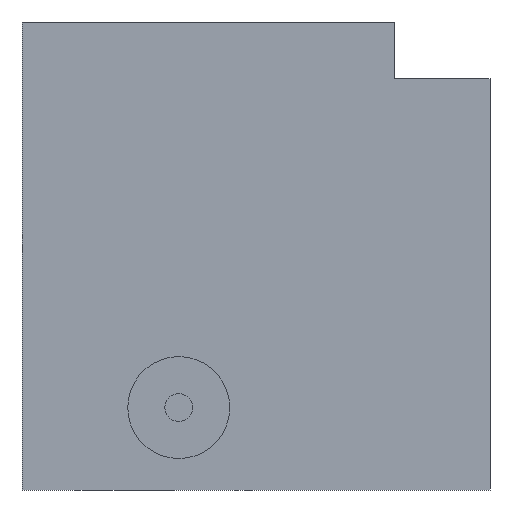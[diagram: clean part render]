
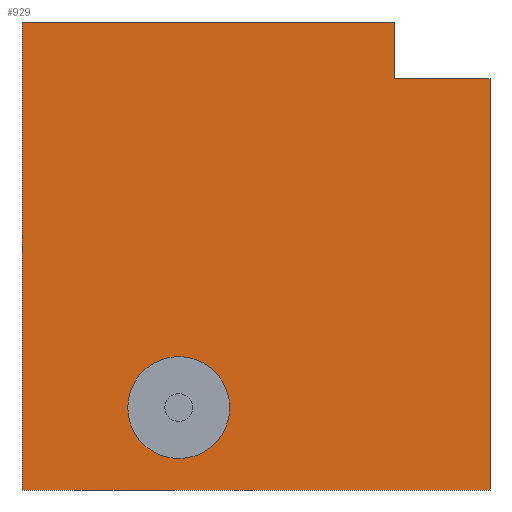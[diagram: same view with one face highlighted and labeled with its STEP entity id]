
A CAD part, front view. The second image highlights one B-rep face of the part: STEP entity #929.
In plain terms, the highlighted planar face has unit normal (0, -1, 0).
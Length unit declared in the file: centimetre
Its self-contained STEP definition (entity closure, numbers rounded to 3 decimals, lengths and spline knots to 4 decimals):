
#2 = CARTESIAN_POINT ( 'NONE',  ( 1000., 0., 879.1119 ) ) ;
#6 = CARTESIAN_POINT ( 'NONE',  ( 334.9439, 0., 176.1278 ) ) ;
#11 = ORIENTED_EDGE ( 'NONE', *, *, #1169, .T. ) ;
#50 = DIRECTION ( 'NONE',  ( 0., 0., -1. ) ) ;
#52 = DIRECTION ( 'NONE',  ( 1., 0., 0. ) ) ;
#60 = VECTOR ( 'NONE', #453, 100. ) ;
#76 = LINE ( 'NONE', #1545, #140 ) ;
#123 = CARTESIAN_POINT ( 'NONE',  ( 0., 0., 1000. ) ) ;
#125 = ORIENTED_EDGE ( 'NONE', *, *, #1502, .F. ) ;
#140 = VECTOR ( 'NONE', #1554, 100. ) ;
#200 = LINE ( 'NONE', #1384, #519 ) ;
#239 = CARTESIAN_POINT ( 'NONE',  ( 334.9439, 0., 67.195 ) ) ;
#253 = CARTESIAN_POINT ( 'NONE',  ( 334.9439, 0., 285.0606 ) ) ;
#273 = CARTESIAN_POINT ( 'NONE',  ( 0., 0., 0. ) ) ;
#290 = LINE ( 'NONE', #123, #1791 ) ;
#375 = EDGE_CURVE ( 'NONE', #1096, #1354, #76, .T. ) ;
#412 = ORIENTED_EDGE ( 'NONE', *, *, #721, .F. ) ;
#442 = ORIENTED_EDGE ( 'NONE', *, *, #375, .T. ) ;
#453 = DIRECTION ( 'NONE',  ( 1., 0., 0. ) ) ;
#519 = VECTOR ( 'NONE', #52, 100. ) ;
#572 = DIRECTION ( 'NONE',  ( 1., 0., 0. ) ) ;
#590 = LINE ( 'NONE', #606, #968 ) ;
#594 = PLANE ( 'NONE',  #1447 ) ;
#606 = CARTESIAN_POINT ( 'NONE',  ( 1000., 0., 1000. ) ) ;
#626 = ORIENTED_EDGE ( 'NONE', *, *, #1202, .F. ) ;
#635 = FACE_BOUND ( 'NONE', #1363, .T. ) ;
#648 = CARTESIAN_POINT ( 'NONE',  ( 0., 0., 1000. ) ) ;
#679 = CIRCLE ( 'NONE', #1138, 108.9328 ) ;
#721 = EDGE_CURVE ( 'NONE', #1070, #1305, #803, .T. ) ;
#728 = DIRECTION ( 'NONE',  ( 0., -1., 0. ) ) ;
#749 = DIRECTION ( 'NONE',  ( 0., -1., 0. ) ) ;
#797 = DIRECTION ( 'NONE',  ( 0., 0., 1. ) ) ;
#803 = CIRCLE ( 'NONE', #1689, 108.9328 ) ;
#833 = CARTESIAN_POINT ( 'NONE',  ( 796.8165, 0., 1000. ) ) ;
#839 = CARTESIAN_POINT ( 'NONE',  ( 796.8165, 0., 879.1119 ) ) ;
#843 = ORIENTED_EDGE ( 'NONE', *, *, #1093, .F. ) ;
#901 = EDGE_LOOP ( 'NONE', ( #843, #125, #1181, #442, #11, #626 ) ) ;
#929 = ADVANCED_FACE ( 'NONE', ( #635, #1087 ), #594, .F. ) ;
#953 = VERTEX_POINT ( 'NONE', #833 ) ;
#968 = VECTOR ( 'NONE', #1053, 100. ) ;
#1030 = CARTESIAN_POINT ( 'NONE',  ( 334.9439, 0., 176.1278 ) ) ;
#1052 = DIRECTION ( 'NONE',  ( 0., 1., 0. ) ) ;
#1053 = DIRECTION ( 'NONE',  ( 0., 0., -1. ) ) ;
#1070 = VERTEX_POINT ( 'NONE', #239 ) ;
#1074 = ORIENTED_EDGE ( 'NONE', *, *, #1400, .F. ) ;
#1085 = CARTESIAN_POINT ( 'NONE',  ( 796.8165, 0., 879.1119 ) ) ;
#1087 = FACE_OUTER_BOUND ( 'NONE', #901, .T. ) ;
#1093 = EDGE_CURVE ( 'NONE', #1745, #1174, #200, .T. ) ;
#1096 = VERTEX_POINT ( 'NONE', #648 ) ;
#1138 = AXIS2_PLACEMENT_3D ( 'NONE', #1030, #728, #1477 ) ;
#1169 = EDGE_CURVE ( 'NONE', #1354, #1601, #1476, .T. ) ;
#1174 = VERTEX_POINT ( 'NONE', #2 ) ;
#1181 = ORIENTED_EDGE ( 'NONE', *, *, #1908, .F. ) ;
#1202 = EDGE_CURVE ( 'NONE', #1174, #1601, #590, .T. ) ;
#1305 = VERTEX_POINT ( 'NONE', #253 ) ;
#1354 = VERTEX_POINT ( 'NONE', #273 ) ;
#1363 = EDGE_LOOP ( 'NONE', ( #412, #1074 ) ) ;
#1384 = CARTESIAN_POINT ( 'NONE',  ( 796.8165, 0., 879.1119 ) ) ;
#1400 = EDGE_CURVE ( 'NONE', #1305, #1070, #679, .T. ) ;
#1447 = AXIS2_PLACEMENT_3D ( 'NONE', #1777, #1052, #797 ) ;
#1476 = LINE ( 'NONE', #1783, #60 ) ;
#1477 = DIRECTION ( 'NONE',  ( 0., 0., -1. ) ) ;
#1483 = VECTOR ( 'NONE', #50, 100. ) ;
#1502 = EDGE_CURVE ( 'NONE', #953, #1745, #1824, .T. ) ;
#1527 = CARTESIAN_POINT ( 'NONE',  ( 1000., 0., 0. ) ) ;
#1545 = CARTESIAN_POINT ( 'NONE',  ( 0., 0., 1000. ) ) ;
#1554 = DIRECTION ( 'NONE',  ( 0., 0., -1. ) ) ;
#1601 = VERTEX_POINT ( 'NONE', #1527 ) ;
#1689 = AXIS2_PLACEMENT_3D ( 'NONE', #6, #749, #1776 ) ;
#1745 = VERTEX_POINT ( 'NONE', #839 ) ;
#1776 = DIRECTION ( 'NONE',  ( 0., 0., -1. ) ) ;
#1777 = CARTESIAN_POINT ( 'NONE',  ( 0., 0., 1000. ) ) ;
#1783 = CARTESIAN_POINT ( 'NONE',  ( 0., 0., 0. ) ) ;
#1791 = VECTOR ( 'NONE', #572, 100. ) ;
#1824 = LINE ( 'NONE', #1085, #1483 ) ;
#1908 = EDGE_CURVE ( 'NONE', #1096, #953, #290, .T. ) ;
